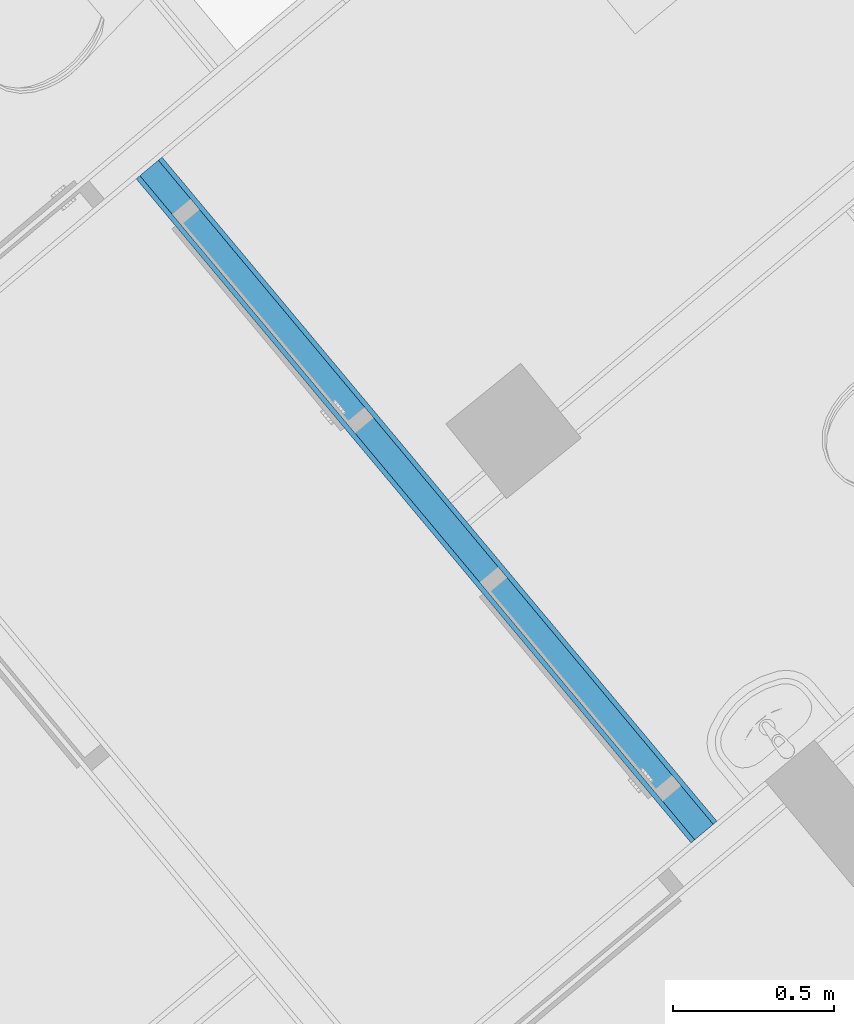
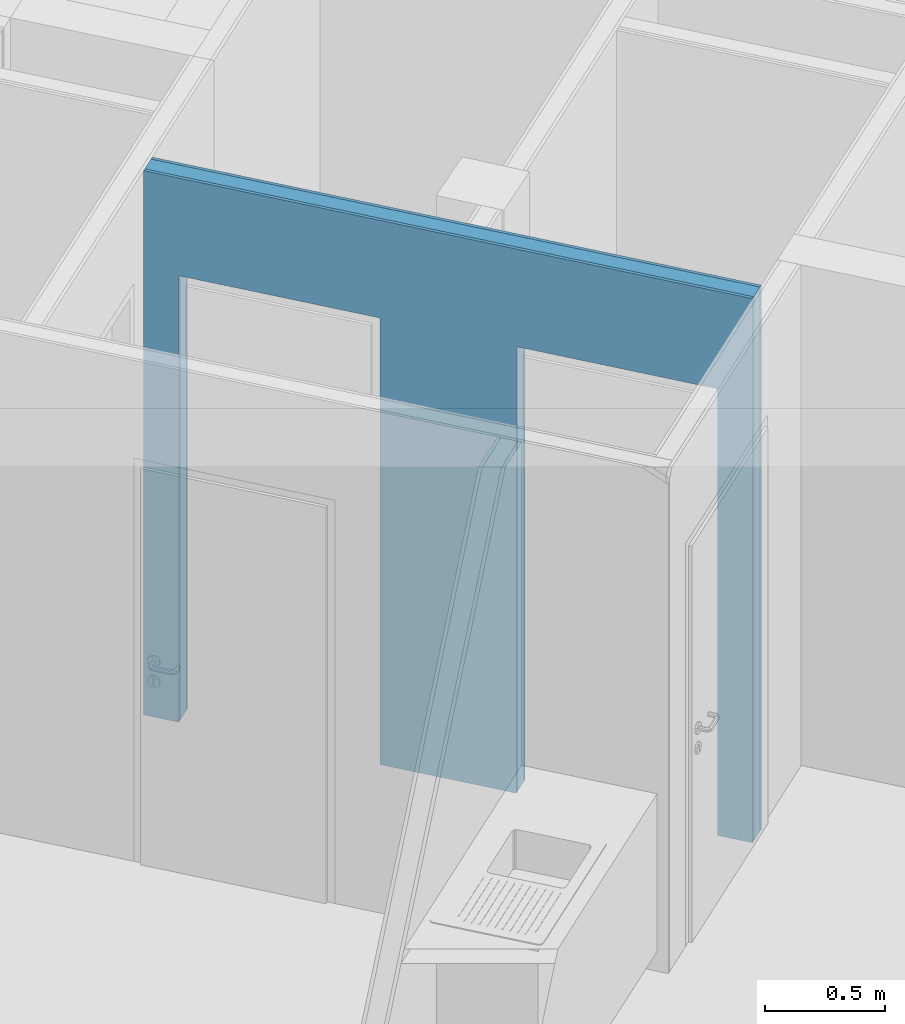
# One storey, part 9 of 58: 3 building element parts, 2 openings, 1 element without a shape of its own.
"""IFC4 building model written with IfcOpenShell, lengths in metres."""

import ifcopenshell
import ifcopenshell.guid

model = None  # the IFC model being written
_history = None  # IfcOwnerHistory: only IFC2X3 demands one
_inside = {}  # id of a spatial element -> (the spatial element, [elements in it])
_under = {}  # id of a project, library or spatial element -> (it, [spatial elements below it])
_declared = {}  # id of a project -> (the project, [libraries it declares])
_typed = {}  # id of a type object -> (the type object, [elements of that type])
_made_of = {}  # id of a material, layer set ... -> (it, [elements and type objects made of it])


def new_model(schema):
    """Start an empty IFC model of exactly this schema.

    Asked for "IFC4X3", IfcOpenShell would pick the latest addendum, in which some entities
    have other attributes; the version numbers below select the first issue.
    IFC2X3 requires an IfcOwnerHistory on every rooted entity: one is made here for all.
    """
    global model, _history
    if schema == "IFC4X3":
        model = ifcopenshell.file(schema_version=(4, 3, 0, 0))
    else:
        model = ifcopenshell.file(schema=schema)
    _inside.clear()
    _under.clear()
    _declared.clear()
    _typed.clear()
    _made_of.clear()
    _history = None
    if model.schema == "IFC2X3":
        org = make("IfcOrganization", Name="unknown")
        user = make(
            "IfcPersonAndOrganization",
            ThePerson=make("IfcPerson", FamilyName="unknown"),
            TheOrganization=org,
        )
        app = make(
            "IfcApplication",
            ApplicationDeveloper=org,
            Version="unknown",
            ApplicationFullName="unknown",
            ApplicationIdentifier="unknown",
        )
        _history = make(
            "IfcOwnerHistory",
            OwningUser=user,
            OwningApplication=app,
            ChangeAction="ADDED",
            CreationDate=0,
        )
    return model


def make(cls, **values):
    """One entity of the class cls with the attributes given. An attribute that is None is left unset."""
    return model.create_entity(
        cls, **{name: value for name, value in values.items() if value is not None}
    )


def entity(cls, *values):
    """Any entity or typed value of the class cls, its attributes in the order of the schema. None: left unset."""
    e = model.create_entity(cls)
    for i, value in enumerate(values):
        if value is not None:
            e[i] = value
    return e


def rooted(cls, **values):
    """An entity with a GlobalId (a new one), such as an element, a storey or a relation."""
    return make(cls, GlobalId=ifcopenshell.guid.new(), OwnerHistory=_history, **values)


def si_unit(unit_type, name, prefix=None):
    """IfcSIUnit, for example si_unit("LENGTHUNIT", "METRE", prefix="MILLI")."""
    return make("IfcSIUnit", UnitType=unit_type, Prefix=prefix, Name=name)


def converted_unit(unit_type, name, factor, base, dimensions=None, offset=None):
    """IfcConversionBasedUnit, such as the inch: factor (a typed value) times the base unit."""
    return make(
        "IfcConversionBasedUnit"
        if offset is None
        else "IfcConversionBasedUnitWithOffset",
        ConversionOffset=offset,
        Dimensions=None
        if dimensions is None
        else entity("IfcDimensionalExponents", *dimensions),
        UnitType=unit_type,
        Name=name,
        ConversionFactor=make(
            "IfcMeasureWithUnit", ValueComponent=factor, UnitComponent=base
        ),
    )


def derived_unit(unit_type, elements):
    """IfcDerivedUnit: a product of units, each with its exponent."""
    return make(
        "IfcDerivedUnit",
        Elements=[
            make("IfcDerivedUnitElement", Unit=unit, Exponent=power)
            for unit, power in elements
        ],
        UnitType=unit_type,
    )


def assignment(units):
    """IfcUnitAssignment: the units of a project."""
    return None if units is None else make("IfcUnitAssignment", Units=units)


def point(xyz):
    """IfcCartesianPoint."""
    return None if xyz is None else make("IfcCartesianPoint", Coordinates=xyz)


def direction(xyz):
    """IfcDirection."""
    return None if xyz is None else make("IfcDirection", DirectionRatios=xyz)


def frame(location, z_axis=None, x_axis=None):
    """IfcAxis2Placement3D, a coordinate frame: its origin and axes. An axis left out is left unset."""
    return make(
        "IfcAxis2Placement3D",
        Location=point(location),
        Axis=direction(z_axis),
        RefDirection=direction(x_axis),
    )


def origin_with_axes():
    """The frame at (0, 0, 0) with the z axis (0, 0, 1) and the x axis (1, 0, 0) written out."""
    return frame((0.0, 0.0, 0.0), z_axis=(0.0, 0.0, 1.0), x_axis=(1.0, 0.0, 0.0))


def place(relative_to, where):
    """IfcLocalPlacement: puts the frame where relative to a parent placement (None: the world)."""
    return make(
        "IfcLocalPlacement", PlacementRelTo=relative_to, RelativePlacement=where
    )


def context(
    kind, dimensions, precision=None, world=None, true_north=None, identifier=None
):
    """IfcGeometricRepresentationContext, for example the 3D "Model" context."""
    return make(
        "IfcGeometricRepresentationContext",
        ContextIdentifier=identifier,
        ContextType=kind,
        CoordinateSpaceDimension=dimensions,
        Precision=precision,
        WorldCoordinateSystem=world,
        TrueNorth=true_north,
    )


def subcontext(parent, identifier, kind, view, scale=None):
    """IfcGeometricRepresentationSubContext, for example "Body" below "Model"."""
    return make(
        "IfcGeometricRepresentationSubContext",
        ContextIdentifier=identifier,
        ContextType=kind,
        ParentContext=parent,
        TargetScale=scale,
        TargetView=view,
    )


def project(units=None, contexts=None):
    """IfcProject with its units and contexts."""
    return rooted(
        "IfcProject",
        Name="project",
        RepresentationContexts=contexts,
        UnitsInContext=assignment(units),
    )


def spatial(cls, under=None, at=None, **own):
    """A site, building, storey or space (cls), placed at a placement, below another one or the project."""
    s = rooted(cls, ObjectPlacement=at, **own)
    if under is not None:
        _under.setdefault(under.id(), (under, []))[1].append(s)
    return s


def point_list(points):
    """IfcCartesianPointList2D or 3D."""
    cls = (
        "IfcCartesianPointList2D" if len(points[0]) == 2 else "IfcCartesianPointList3D"
    )
    return make(cls, CoordList=points)


def polygons(points, faces, closed=None, point_numbers=None):
    """IfcPolygonalFaceSet: a face is its outer loop, then its inner loops; points numbered from 1."""
    made = []
    for loops in faces:
        if len(loops) == 1:
            made.append(make("IfcIndexedPolygonalFace", CoordIndex=loops[0]))
        else:
            made.append(
                make(
                    "IfcIndexedPolygonalFaceWithVoids",
                    CoordIndex=loops[0],
                    InnerCoordIndices=loops[1:],
                )
            )
    return make(
        "IfcPolygonalFaceSet",
        Coordinates=point_list(points),
        Closed=closed,
        Faces=made,
        PnIndex=point_numbers,
    )


def shape(context_of_items, identifier, shape_type, items):
    """IfcShapeRepresentation: the items that make up one representation, for example the "Body"."""
    return make(
        "IfcShapeRepresentation",
        ContextOfItems=context_of_items,
        RepresentationIdentifier=identifier,
        RepresentationType=shape_type,
        Items=items,
    )


def material(Name=None, Category=None):
    """IfcMaterial."""
    return make("IfcMaterial", Name=Name, Category=Category)


def made_of(thing, what):
    """Note that an element or type object is made of a material, layer set ...; save() writes the relation."""
    if what is not None:
        _made_of.setdefault(what.id(), (what, []))[1].append(thing)
    return thing


def type_object(cls, material=None, **own):
    """A type object (cls), such as IfcWallType, which elements share."""
    return made_of(rooted(cls, **own), material)


def element(
    cls,
    number,
    at=None,
    inside=None,
    cuts=None,
    type_object=None,
    material=None,
    context=None,
    identifier="Body",
    shape_type=None,
    held_by="IfcProductDefinitionShape",
    body=None,
    shapes=None,
    **own,
):
    """One element of the class cls, such as IfcWall. Its Tag is "e" and its number.

    at: its placement. inside: the storey or other place that contains it. cuts: it is an
    opening in that element (IfcRelVoidsElement). A single representation is given by context,
    identifier, shape_type and body (its items); several are given by shapes. held_by: the class
    of the entity that holds the representations. save() writes the other relations.
    """
    e = rooted(cls, Tag="e%d" % number, ObjectPlacement=at, **own)
    if body is not None:
        shapes = [shape(context, identifier, shape_type, body)]
    if shapes is not None:
        e.Representation = make(held_by, Representations=shapes)
    if inside is not None:
        _inside.setdefault(inside.id(), (inside, []))[1].append(e)
    if cuts is not None:
        rooted(
            "IfcRelVoidsElement", RelatingBuildingElement=cuts, RelatedOpeningElement=e
        )
    if type_object is not None:
        _typed.setdefault(type_object.id(), (type_object, []))[1].append(e)
    return made_of(e, material)


def aggregate(whole, parts):
    """IfcRelAggregates: a whole, such as a stair, and the parts it consists of."""
    return rooted("IfcRelAggregates", RelatingObject=whole, RelatedObjects=parts)


def save(model, path):
    """Write the relations noted so far, then the file.

    IfcRelAggregates (storeys below a building ...), IfcRelContainedInSpatialStructure (elements
    in a storey), IfcRelDefinesByType, IfcRelAssociatesMaterial and IfcRelDeclares: one each for
    every whole, place, type object, material and project.
    """
    for whole, parts in _under.values():
        aggregate(whole, parts)
    for where, things in _inside.values():
        rooted(
            "IfcRelContainedInSpatialStructure",
            RelatedElements=things,
            RelatingStructure=where,
        )
    for kind, things in _typed.values():
        rooted("IfcRelDefinesByType", RelatedObjects=things, RelatingType=kind)
    for what, things in _made_of.values():
        rooted("IfcRelAssociatesMaterial", RelatedObjects=things, RelatingMaterial=what)
    for by, libraries in _declared.values():
        rooted("IfcRelDeclares", RelatingContext=by, RelatedDefinitions=libraries)
    model.write(path)


model = new_model("IFC4")

# Units and contexts
model_context = context("Model", 3, precision=1e-05, world=origin_with_axes(), true_north=direction((0.0, 1.0)))
body_context = subcontext(model_context, "Body", "Model", "MODEL_VIEW")
ifc_project = project(units=[si_unit("LENGTHUNIT", "METRE"), si_unit("AREAUNIT", "SQUARE_METRE"), si_unit("VOLUMEUNIT", "CUBIC_METRE"), converted_unit("PLANEANGLEUNIT", "DEGREE", entity("IfcPlaneAngleMeasure", 0.0174532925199), si_unit("PLANEANGLEUNIT", "RADIAN"), dimensions=[0, 0, 0, 0, 0, 0, 0]), converted_unit("TIMEUNIT", "Year", entity("IfcTimeMeasure", 31556926.0), si_unit("TIMEUNIT", "SECOND"), dimensions=[0, 0, 1, 0, 0, 0, 0]), si_unit("MASSUNIT", "GRAM", prefix="KILO"), si_unit("THERMODYNAMICTEMPERATUREUNIT", "DEGREE_CELSIUS"), si_unit("LUMINOUSINTENSITYUNIT", "LUMEN"), si_unit("ENERGYUNIT", "JOULE", prefix="MEGA"), derived_unit("THERMALCONDUCTANCEUNIT", [(si_unit("POWERUNIT", "WATT"), 1), (si_unit("LENGTHUNIT", "METRE"), -1), (si_unit("THERMODYNAMICTEMPERATUREUNIT", "KELVIN"), -1)]), derived_unit("SPECIFICHEATCAPACITYUNIT", [(si_unit("ENERGYUNIT", "JOULE"), 1), (si_unit("MASSUNIT", "GRAM", prefix="KILO"), -1), (si_unit("THERMODYNAMICTEMPERATUREUNIT", "KELVIN"), -1)]), derived_unit("MASSDENSITYUNIT", [(si_unit("MASSUNIT", "GRAM", prefix="KILO"), 1), (si_unit("VOLUMEUNIT", "CUBIC_METRE"), -1)])], contexts=[model_context])

# Site, building, storey
site_placement = place(None, frame((-0.00153261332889, -0.00661245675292, 0.0), z_axis=(0.0, 0.0, 1.0), x_axis=(1.0, 0.0, 0.0)))
site = spatial("IfcSite", under=ifc_project, at=site_placement, Name="Site", CompositionType="ELEMENT")
building_placement = place(site_placement, origin_with_axes())
building = spatial("IfcBuilding", under=site, at=building_placement, Name="Building", CompositionType="ELEMENT")
storey_placement = place(building_placement, frame((0.0, 0.0, 5.7), z_axis=(0.0, 0.0, 1.0), x_axis=(1.0, 0.0, 0.0)))
storey = spatial("IfcBuildingStorey", under=building, at=storey_placement, Name="DG1", CompositionType="ELEMENT", Elevation=5.7)

# Wall, openings, building element parts
wall_type = type_object("IfcWallType", Name="IW LB 01 Leichtbautrennwand einfach 10,5 cm 105", PredefinedType="NOTDEFINED")
wall_placement = place(storey_placement, frame((-1.00185448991, 17.6693449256, 0.0), z_axis=(0.0, 0.0, 1.0), x_axis=(-0.641209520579, 0.767365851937, 0.0)))
wall = element("IfcWall", 1, at=wall_placement, inside=storey, type_object=wall_type, Name="Wand-012", PredefinedType="NOTDEFINED")
opening_1_placement = place(wall_placement, frame((0.600343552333, 0.0, 0.22), z_axis=(0.0, 0.0, 1.0), x_axis=(1.0, 0.0, 0.0)))
element("IfcOpeningElement", 2, at=opening_1_placement, cuts=wall, Name="Tür-016", context=body_context, identifier="Reference", shape_type="Tessellation", body=[
    polygons([(-0.445, -1.32697699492, 2.045), (-0.445, -1.32697699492, -0.22), (0.445, -1.32697699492, -0.22), (0.445, -1.32697699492, 2.045), (-0.445, 1.43197699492, 2.045), (-0.445, 1.43197699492, -0.22), (0.445, 1.43197699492, -0.22), (0.445, 1.43197699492, 2.045)], [[[1, 2, 3, 4]], [[5, 6, 2, 1]], [[6, 7, 3, 2]], [[7, 8, 4, 3]], [[8, 5, 1, 4]], [[7, 6, 5, 8]]], closed=True),
])
opening_2_placement = place(wall_placement, frame((2.09376015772, 0.0, 0.22), z_axis=(0.0, 0.0, 1.0), x_axis=(1.0, 0.0, 0.0)))
element("IfcOpeningElement", 3, at=opening_2_placement, cuts=wall, Name="Tür-016", context=body_context, identifier="Reference", shape_type="Tessellation", body=[
    polygons([(-0.445, -1.32697699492, 2.045), (-0.445, -1.32697699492, -0.22), (0.445, -1.32697699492, -0.22), (0.445, -1.32697699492, 2.045), (-0.445, 1.43197699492, 2.045), (-0.445, 1.43197699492, -0.22), (0.445, 1.43197699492, -0.22), (0.445, 1.43197699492, 2.045)], [[[1, 2, 3, 4]], [[5, 6, 2, 1]], [[6, 7, 3, 2]], [[7, 8, 4, 3]], [[8, 5, 1, 4]], [[7, 6, 5, 8]]], closed=True),
])
ifc_material_1 = material(Name="Gipskarton")
building_element_part_1_placement = place(wall_placement, origin_with_axes())
building_element_part_1 = element("IfcBuildingElementPart", 4, at=building_element_part_1_placement, material=ifc_material_1, Name="Gipskarton", PredefinedType="NOTDEFINED", context=body_context, shape_type="Tessellation", body=[
    polygons([(2.53876015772, 0.09, 2.265), (2.53876015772, 0.09, 0.22), (2.53876015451, 0.09, 0.0), (2.69484355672, 0.09, 0.0), (2.69484355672, 0.09, 2.76), (0.0, 0.09, 2.76), (0.0, 0.09, 0.0), (0.155343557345, 0.09, 0.0), (0.155343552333, 0.09, 0.22), (0.155343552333, 0.09, 2.265), (1.04534355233, 0.09, 2.265), (1.04534355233, 0.09, 0.22), (1.04534353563, 0.09, 0.0), (1.64876015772, 0.09, 0.0), (1.64876015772, 0.09, 0.22), (1.64876015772, 0.09, 2.265), (2.53876015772, 0.105, 2.265), (2.53876015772, 0.105, 0.22), (2.53876015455, 0.105, 0.0), (2.69484355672, 0.105, 0.0), (2.69484355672, 0.105, 2.76), (0.0, 0.105, 2.76), (0.0, 0.105, 0.0), (0.155343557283, 0.105, 0.0), (0.155343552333, 0.105, 0.22), (0.155343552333, 0.105, 2.265), (1.04534355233, 0.105, 2.265), (1.04534355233, 0.105, 0.22), (1.04534353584, 0.105, 0.0), (1.64876015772, 0.105, 0.0), (1.64876015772, 0.105, 0.22), (1.64876015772, 0.105, 2.265)], [[[1, 2, 3, 4, 5, 6, 7, 8, 9, 10, 11, 12, 13, 14, 15, 16]], [[2, 1, 17, 18]], [[2, 18, 19, 3]], [[20, 4, 3, 19]], [[21, 5, 4, 20]], [[21, 22, 6, 5]], [[7, 6, 22, 23]], [[7, 23, 24, 8]], [[9, 8, 24, 25]], [[9, 25, 26, 10]], [[10, 26, 27, 11]], [[11, 27, 28, 12]], [[28, 29, 13, 12]], [[13, 29, 30, 14]], [[31, 15, 14, 30]], [[16, 15, 31, 32]], [[1, 16, 32, 17]], [[32, 31, 30, 29, 28, 27, 26, 25, 24, 23, 22, 21, 20, 19, 18, 17]]], closed=True),
])
ifc_material_2 = material(Name="Mineralwolle weich")
building_element_part_2_placement = place(wall_placement, origin_with_axes())
building_element_part_2 = element("IfcBuildingElementPart", 5, at=building_element_part_2_placement, material=ifc_material_2, Name="Mineralwolle weich", PredefinedType="NOTDEFINED", context=body_context, shape_type="Tessellation", body=[
    polygons([(2.53876015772, 0.015, 2.265), (2.53876015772, 0.015, 0.22), (2.53876015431, 0.015, 0.0), (2.69484355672, 0.015, 0.0), (2.69484355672, 0.015, 2.76), (0.0, 0.015, 2.76), (0.0, 0.015, 0.0), (0.155343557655, 0.015, 0.0), (0.155343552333, 0.015, 0.22), (0.155343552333, 0.015, 2.265), (1.04534355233, 0.015, 2.265), (1.04534355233, 0.015, 0.22), (1.0453435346, 0.015, 0.0), (1.64876015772, 0.015, 0.0), (1.64876015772, 0.015, 0.22), (1.64876015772, 0.015, 2.265), (2.53876015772, 0.09, 2.265), (2.53876015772, 0.09, 0.22), (2.53876015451, 0.09, 0.0), (2.69484355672, 0.09, 0.0), (2.69484355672, 0.09, 2.76), (0.0, 0.09, 2.76), (0.0, 0.09, 0.0), (0.155343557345, 0.09, 0.0), (0.155343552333, 0.09, 0.22), (0.155343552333, 0.09, 2.265), (1.04534355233, 0.09, 2.265), (1.04534355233, 0.09, 0.22), (1.04534353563, 0.09, 0.0), (1.64876015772, 0.09, 0.0), (1.64876015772, 0.09, 0.22), (1.64876015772, 0.09, 2.265)], [[[1, 2, 3, 4, 5, 6, 7, 8, 9, 10, 11, 12, 13, 14, 15, 16]], [[2, 1, 17, 18]], [[2, 18, 19, 3]], [[20, 4, 3, 19]], [[21, 5, 4, 20]], [[21, 22, 6, 5]], [[7, 6, 22, 23]], [[7, 23, 24, 8]], [[9, 8, 24, 25]], [[9, 25, 26, 10]], [[10, 26, 27, 11]], [[11, 27, 28, 12]], [[28, 29, 13, 12]], [[13, 29, 30, 14]], [[31, 15, 14, 30]], [[16, 15, 31, 32]], [[1, 16, 32, 17]], [[32, 31, 30, 29, 28, 27, 26, 25, 24, 23, 22, 21, 20, 19, 18, 17]]], closed=True),
])
building_element_part_3_placement = place(wall_placement, origin_with_axes())
building_element_part_3 = element("IfcBuildingElementPart", 6, at=building_element_part_3_placement, material=ifc_material_1, Name="Gipskarton", PredefinedType="NOTDEFINED", context=body_context, shape_type="Tessellation", body=[
    polygons([(2.53876015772, 1.70691709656e-08, 2.265), (2.53876015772, 1.87500468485e-08, 0.22), (2.53876015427, 1.87500468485e-08, 0.0), (2.69484355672, 0.0, 0.0), (2.69484355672, 0.0, 2.76), (0.0, 0.0, 2.76), (0.0, 0.0, 0.0), (0.155343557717, 1.84442470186e-08, 0.0), (0.155343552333, 1.84442470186e-08, 0.22), (0.155343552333, 1.70691709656e-08, 2.265), (1.04534355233, 1.70691727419e-08, 2.265), (1.04534355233, -1.2392145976e-08, 0.22), (1.04534353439, -1.23921424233e-08, 0.0), (1.64876015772, 1.70691727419e-08, 0.0), (1.64876015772, 1.70691727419e-08, 0.22), (1.64876015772, 1.70691709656e-08, 2.265), (2.53876015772, 0.015, 2.265), (2.53876015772, 0.015, 0.22), (2.53876015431, 0.015, 0.0), (2.69484355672, 0.015, 0.0), (2.69484355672, 0.015, 2.76), (0.0, 0.015, 2.76), (0.0, 0.015, 0.0), (0.155343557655, 0.015, 0.0), (0.155343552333, 0.015, 0.22), (0.155343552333, 0.015, 2.265), (1.04534355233, 0.015, 2.265), (1.04534355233, 0.015, 0.22), (1.0453435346, 0.015, 0.0), (1.64876015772, 0.015, 0.0), (1.64876015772, 0.015, 0.22), (1.64876015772, 0.015, 2.265)], [[[1, 2, 3, 4, 5, 6, 7, 8, 9, 10, 11, 12, 13, 14, 15, 16]], [[2, 1, 17, 18]], [[2, 18, 19, 3]], [[20, 4, 3, 19]], [[21, 5, 4, 20]], [[21, 22, 6, 5]], [[7, 6, 22, 23]], [[7, 23, 24, 8]], [[9, 8, 24, 25]], [[9, 25, 26, 10]], [[10, 26, 27, 11]], [[11, 27, 28, 12]], [[28, 29, 13, 12]], [[13, 29, 30, 14]], [[31, 15, 14, 30]], [[16, 15, 31, 32]], [[1, 16, 32, 17]], [[32, 31, 30, 29, 28, 27, 26, 25, 24, 23, 22, 21, 20, 19, 18, 17]]], closed=True),
])
aggregate(wall, [building_element_part_1, building_element_part_2, building_element_part_3])

save(model, "model.ifc")
